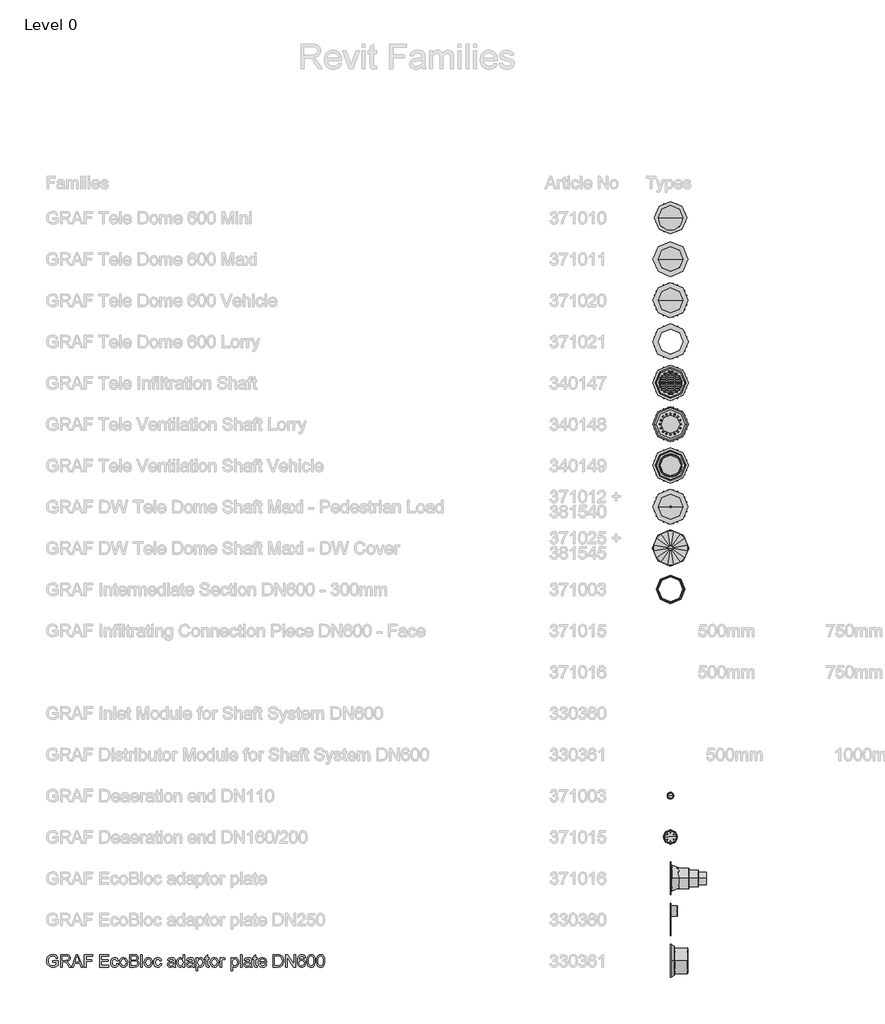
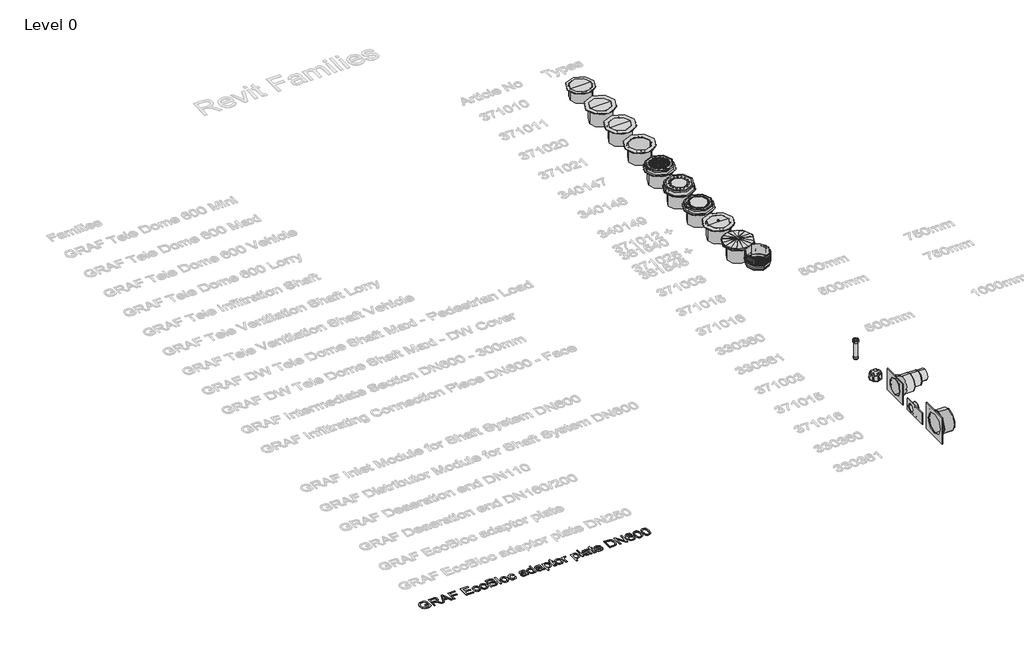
# One storey, part 1 of 25: 16 proxies.
"""IFC4 building model written with IfcOpenShell, lengths in millimetres."""

from ifc_helpers import new_model, si_unit, origin, origin_with_axes, place, context, project, spatial, polyline, outline, extrude, transform, mapped, element, save
from components import specialty_equipment_5184973a, specialty_equipment_2c5f0238, specialty_equipment_1d14676d, specialty_equipment_d7f88c08, specialty_equipment_90b081b5, specialty_equipment_a2e9a65d, specialty_equipment_93227a62, specialty_equipment_46b19107, specialty_equipment_2ab5d599, specialty_equipment_1e456aff, proxy_600_mini_8c9d897d, dome_600_vehicle_504724ee, infiltration_shaft_7ea02f98, intermediate_section_dn600_300mm_32245d74, ventilation_shaft_vehicle_b4d13a4b

model = new_model("IFC4")

# Units and contexts
model_context = context("Model", 3, world=origin())
ifc_project = project(units=[si_unit("LENGTHUNIT", "METRE", prefix="MILLI")], contexts=[model_context])

# Site, building, storey
site = spatial("IfcSite", under=ifc_project)
building = spatial("IfcBuilding", under=site)
storey = spatial("IfcBuildingStorey", under=building, Name="Level 0", Elevation=0.0)

# Proxies
placement = place(None, origin())
specialty_equipment_shape = specialty_equipment_5184973a(model_context)
element("IfcBuildingElementProxy", 1, Name="GRAF Tele Dome 600 Maxi : 600 Maxi", ObjectType="GRAF Tele Dome 600 Maxi : 600 Maxi", at=placement, inside=storey, context=model_context, shape_type="MappedRepresentation", body=[
    mapped(specialty_equipment_shape, transform((-270.8351154, 6948.6272801, 0.0), x_axis=(1.0, 0.0, 0.0), y_axis=(0.0, 1.0, 0.0), z_axis=(0.0, 0.0, 1.0))),
])
specialty_equipment_2_shape = specialty_equipment_2c5f0238(model_context)
element("IfcBuildingElementProxy", 2, Name="GRAF Tele Dome 600 Lorry : Dome 600 Lorry", ObjectType="GRAF Tele Dome 600 Lorry : Dome 600 Lorry", at=placement, inside=storey, context=model_context, shape_type="MappedRepresentation", body=[
    mapped(specialty_equipment_2_shape, transform((-270.8351154, 4949.0232018, 0.0), x_axis=(1.0, 0.0, 0.0), y_axis=(0.0, 1.0, 0.0), z_axis=(0.0, 0.0, 1.0))),
])
specialty_equipment_3_shape = specialty_equipment_1d14676d(model_context)
element("IfcBuildingElementProxy", 3, Name="GRAF Tele Ventilation Shaft Lorry : Ventilation Shaft Lorry", ObjectType="GRAF Tele Ventilation Shaft Lorry : Ventilation Shaft Lorry", at=placement, inside=storey, context=model_context, shape_type="MappedRepresentation", body=[
    mapped(specialty_equipment_3_shape, transform((-270.8351154, 2949.0232018, 0.0), x_axis=(1.0, 0.0, 0.0), y_axis=(0.0, 1.0, 0.0), z_axis=(0.0, 0.0, 1.0))),
])
specialty_equipment_4_shape = specialty_equipment_d7f88c08(model_context)
element("IfcBuildingElementProxy", 4, Name="GRAF DW Tele Dome Shaft Maxi - Pedestrian Load : DW Tele Dome Shaft Maxi - Pedestrian Load", ObjectType="GRAF DW Tele Dome Shaft Maxi - Pedestrian Load : DW Tele Dome Shaft Maxi - Pedestrian Load", at=placement, inside=storey, context=model_context, shape_type="MappedRepresentation", body=[
    mapped(specialty_equipment_4_shape, transform((-270.8351154, 949.0064731, 0.0), x_axis=(1.0, 0.0, 0.0), y_axis=(0.0, 1.0, 0.0), z_axis=(0.0, 0.0, 1.0))),
])
specialty_equipment_5_shape = specialty_equipment_90b081b5(model_context)
element("IfcBuildingElementProxy", 5, Name="GRAF DW Tele Dome Shaft Maxi - Cover : DW Tele Dome Shaft Maxi - Cover", ObjectType="GRAF DW Tele Dome Shaft Maxi - Cover : DW Tele Dome Shaft Maxi - Cover", at=placement, inside=storey, context=model_context, shape_type="MappedRepresentation", body=[
    mapped(specialty_equipment_5_shape, transform((-270.8351154, -50.9935269, 0.0), x_axis=(1.0, 0.0, 0.0), y_axis=(0.0, 1.0, 0.0), z_axis=(0.0, 0.0, 1.0))),
])
specialty_equipment_6_shape = specialty_equipment_a2e9a65d(model_context)
element("IfcBuildingElementProxy", 6, Name="GRAF EcoBloc adaptor plate DN600 : GRAF EcoBloc adaptor plate DN600", ObjectType="GRAF EcoBloc adaptor plate DN600 : GRAF EcoBloc adaptor plate DN600", at=placement, inside=storey, context=model_context, shape_type="MappedRepresentation", body=[
    mapped(specialty_equipment_6_shape, transform((883.9117754, -10050.9767982, 0.0), x_axis=(1.0, 0.0, 0.0), y_axis=(0.0, 1.0, 0.0), z_axis=(0.0, 0.0, 1.0))),
])
specialty_equipment_7_shape = specialty_equipment_93227a62(model_context)
element("IfcBuildingElementProxy", 7, Name="GRAF Deaeration end DN110 : GRAF Deaeration end DN110", ObjectType="GRAF Deaeration end DN110 : GRAF Deaeration end DN110", at=placement, inside=storey, context=model_context, shape_type="MappedRepresentation", body=[
    mapped(specialty_equipment_7_shape, transform((883.9117754, -6050.9767982, 0.0), x_axis=(1.0, 0.0, 0.0), y_axis=(0.0, 1.0, 0.0), z_axis=(0.0, 0.0, 1.0))),
])
specialty_equipment_8_shape = specialty_equipment_46b19107(model_context)
element("IfcBuildingElementProxy", 8, Name="GRAF Deaeration end DN160-DN200 : GRAF Deaeration end DN160/DN200", ObjectType="GRAF Deaeration end DN160-DN200 : GRAF Deaeration end DN160/DN200", at=placement, inside=storey, context=model_context, shape_type="MappedRepresentation", body=[
    mapped(specialty_equipment_8_shape, transform((883.9117754, -7050.9767982, 0.0), x_axis=(1.0, 0.0, 0.0), y_axis=(0.0, 1.0, 0.0), z_axis=(0.0, 0.0, 1.0))),
])
specialty_equipment_9_shape = specialty_equipment_2ab5d599(model_context)
element("IfcBuildingElementProxy", 9, Name="GRAF EcoBloc adaptor plate : GRAF EcoBloc adaptor plate", ObjectType="GRAF EcoBloc adaptor plate : GRAF EcoBloc adaptor plate", at=placement, inside=storey, context=model_context, shape_type="MappedRepresentation", body=[
    mapped(specialty_equipment_9_shape, transform((883.9117754, -8050.9767982, 0.0), x_axis=(1.0, 0.0, 0.0), y_axis=(0.0, 1.0, 0.0), z_axis=(0.0, 0.0, 1.0))),
])
specialty_equipment_10_shape = specialty_equipment_1e456aff(model_context)
element("IfcBuildingElementProxy", 10, Name="GRAF EcoBloc adaptor plate DN250 : GRAF EcoBloc adaptor plate DN250", ObjectType="GRAF EcoBloc adaptor plate DN250 : GRAF EcoBloc adaptor plate DN250", at=placement, inside=storey, context=model_context, shape_type="MappedRepresentation", body=[
    mapped(specialty_equipment_10_shape, transform((883.9117754, -9050.9767982, 0.0), x_axis=(1.0, 0.0, 0.0), y_axis=(0.0, 1.0, 0.0), z_axis=(0.0, 0.0, 1.0))),
])
element("IfcBuildingElementProxy", 11, Name="300mm Arial", ObjectType="300mm Arial", at=placement, inside=storey, context=model_context, shape_type="SweptSolid", body=[
    extrude(outline(polyline([(-15240.9940387, -10083.2545597), (-15240.9940387, -10045.5834434), (-15118.5629107, -10045.5834434), (-15118.5629107, -10158.2289103), (-15148.3153671, -10178.9222726), (-15179.0059225, -10193.7663111), (-15210.5610007, -10202.7058436), (-15242.9070251, -10205.6856877), (-15285.1674693, -10200.949207), (-15323.3628175, -10186.739765), (-15355.0926395, -10163.5540022), (-15377.9565055, -10131.8885595), (-15391.7796715, -10093.9047435), (-15396.3873935, -10051.7638609), (-15391.7980656, -10009.3194757), (-15378.0300819, -9969.8365406), (-15355.6536596, -9936.717964), (-15325.2390156, -9913.3666543), (-15288.1932987, -9899.5158972), (-15245.9236575, -9894.8989782), (-15214.8928112, -9897.5753197), (-15186.9889618, -9905.6043443), (-15163.4904994, -9918.4066377), (-15145.6758138, -9935.4027859), (-15132.4964413, -9957.4113262), (-15122.9039183, -9985.2507962), (-15157.6319786, -9995.0364573), (-15165.3850917, -9975.1800266), (-15174.8120678, -9960.1980323), (-15187.2832674, -9948.9040551), (-15204.169051, -9940.1116754), (-15224.3013932, -9934.4554897), (-15246.5122687, -9932.5700945), (-15272.5123287, -9934.6026425), (-15294.7415982, -9940.7002866), (-15313.1173039, -9950.0996716), (-15327.5566722, -9962.0374423), (-15346.9440533, -9991.0633317), (-15355.7732212, -10019.50061), (-15358.7162772, -10050.2187566), (-15355.175413, -10086.2436009), (-15344.5528204, -10115.8856927), (-15327.1703961, -10138.9334997), (-15303.3500369, -10155.1754898), (-15275.4737787, -10164.804801), (-15245.9236575, -10168.0145714), (-15219.831627, -10165.5957473), (-15194.3833899, -10158.3392749), (-15172.2828791, -10148.3420817), (-15156.234027, -10137.701095), (-15156.234027, -10083.2545597), (-15240.9940387, -10083.2545597)])), origin_with_axes(), (0.0, 0.0, 1.0), 10.0),
    extrude(outline(polyline([(-15057.3473467, -10200.9767982), (-15057.3473467, -9899.6078677), (-14927.4850024, -9899.6078677), (-14892.5821982, -9901.6404158), (-14867.1891434, -9907.7380598), (-14848.6294968, -9918.9952489), (-14834.2269167, -9936.5064318), (-14824.9838815, -9958.2206666), (-14821.9028698, -9982.087011), (-14827.0072325, -10011.7750881), (-14842.3203206, -10036.3863935), (-14853.9200997, -10046.4157764), (-14868.3019865, -10054.4310054), (-14905.4120827, -10064.4190016), (-14884.0013506, -10080.532233), (-14853.467145, -10119.3069952), (-14803.2144645, -10200.9767982), (-14846.9924219, -10200.9767982), (-14886.2086426, -10138.5104354), (-14914.5355562, -10097.1604991), (-14934.4379722, -10077.6259652), (-14952.3538253, -10070.4522663), (-14974.2060158, -10069.1278911), (-15019.6762304, -10069.1278911), (-15019.6762304, -10200.9767982), (-15057.3473467, -10200.9767982)]), holes=[polyline([(-15019.6762304, -10031.4567748), (-14935.3576771, -10031.4567748), (-14911.1418448, -10030.1232026), (-14892.3522719, -10026.1224859), (-14878.2072092, -10019.1879103), (-14867.9249074, -10009.0527613), (-14861.6617165, -9996.7930938), (-14859.5739861, -9983.4849626), (-14863.5563087, -9965.109257), (-14875.5032765, -9950.3020067), (-14896.058683, -9940.5347397), (-14925.8663217, -9937.278984), (-15019.6762304, -9937.278984), (-15019.6762304, -10031.4567748)])]), origin_with_axes(), (0.0, 0.0, 1.0), 10.0),
    extrude(outline(polyline([(-14791.0743586, -10200.9767982), (-14670.7769462, -9899.6078677), (-14638.6976362, -9899.6078677), (-14518.4002238, -10200.9767982), (-14558.2050557, -10200.9767982), (-14592.7123868, -10106.7990074), (-14716.835772, -10106.7990074), (-14751.2695268, -10200.9767982), (-14791.0743586, -10200.9767982)]), holes=[polyline([(-14703.003409, -10069.1278911), (-14606.4711735, -10069.1278911), (-14633.6208647, -9995.0364573), (-14654.7372912, -9937.278984), (-14673.499273, -9988.5617342), (-14703.003409, -10069.1278911)])]), origin_with_axes(), (0.0, 0.0, 1.0), 10.0),
    extrude(outline(polyline([(-14478.1539335, -10200.9767982), (-14478.1539335, -9899.6078677), (-14275.6716834, -9899.6078677), (-14275.6716834, -9937.278984), (-14440.4828172, -9937.278984), (-14440.4828172, -10026.7478853), (-14299.2161311, -10026.7478853), (-14299.2161311, -10064.4190016), (-14440.4828172, -10064.4190016), (-14440.4828172, -10200.9767982), (-14478.1539335, -10200.9767982)])), origin_with_axes(), (0.0, 0.0, 1.0), 10.0),
    extrude(outline(polyline([(-14106.15166, -10200.9767982), (-14106.15166, -9899.6078677), (-13889.5427413, -9899.6078677), (-13889.5427413, -9937.278984), (-14068.4805437, -9937.278984), (-14068.4805437, -10026.7478853), (-13898.9605203, -10026.7478853), (-13898.9605203, -10064.4190016), (-14068.4805437, -10064.4190016), (-14068.4805437, -10163.3056819), (-13884.8338517, -10163.3056819), (-13884.8338517, -10200.9767982), (-14106.15166, -10200.9767982)])), origin_with_axes(), (0.0, 0.0, 1.0), 10.0),
    extrude(outline(polyline([(-13691.7693806, -10120.925676), (-13654.0982643, -10125.6345656), (-13664.6012953, -10159.1394183), (-13684.3381643, -10184.4588966), (-13711.4510674, -10200.3789899), (-13744.0822004, -10205.6856877), (-13765.2101232, -10203.8347814), (-13784.1537467, -10198.2820626), (-13800.9130708, -10189.0275311), (-13815.4880956, -10176.0711871), (-13827.2856114, -10159.6567523), (-13835.7124083, -10140.0279486), (-13840.7684865, -10117.184776), (-13842.4538459, -10091.1272344), (-13839.5751693, -10057.6039876), (-13830.9391394, -10028.550507), (-13816.4078006, -10005.0888328), (-13795.8431971, -9988.341005), (-13771.2410887, -9978.2978265), (-13744.5972352, -9974.9501003), (-13712.7662455, -9979.5486253), (-13687.3180085, -9993.3442001), (-13669.0618645, -10015.6010608), (-13658.8071539, -10045.5834434), (-13696.4782702, -10050.292333), (-13703.3116782, -10033.8572048), (-13713.952665, -10022.0757839), (-13727.8126191, -10014.9848585), (-13744.3029296, -10012.6212166), (-13768.6475206, -10017.2749239), (-13787.9705224, -10031.2360456), (-13800.5796778, -10055.2587399), (-13804.7827296, -10090.0971648), (-13800.6716483, -10125.4046393), (-13788.3384044, -10149.5101071), (-13769.3648905, -10163.3884553), (-13745.3329991, -10168.0145714), (-13725.8260564, -10165.1266977), (-13709.8323866, -10156.4630768), (-13698.1981185, -10141.8029793), (-13691.7693806, -10120.925676)])), origin_with_axes(), (0.0, 0.0, 1.0), 10.0),
    extrude(outline(polyline([(-13630.5538167, -10090.317894), (-13628.5166701, -10061.6552881), (-13622.4052305, -10036.9566106), (-13612.2194977, -10016.2218617), (-13597.9594719, -9999.4510412), (-13583.602877, -9988.7318796), (-13567.7563601, -9981.0753356), (-13550.4199211, -9976.4814091), (-13531.5935599, -9974.9501003), (-13510.8105265, -9976.8148022), (-13492.0186543, -9982.4089078), (-13475.2179434, -9991.7324171), (-13460.4083939, -10004.7853302), (-13448.3211711, -10021.1261885), (-13439.6874405, -10040.3135338), (-13434.5072022, -10062.3473661), (-13432.780456, -10087.2276853), (-13435.8338766, -10125.2850777), (-13444.9941383, -10154.2557848), (-13459.9945266, -10175.9516255), (-13480.5683272, -10192.1844185), (-13505.0048887, -10202.3103704), (-13531.5935599, -10205.6856877), (-13552.6800961, -10203.8278836), (-13571.6467122, -10198.2544714), (-13588.4934083, -10188.965451), (-13603.2201844, -10175.9608225), (-13615.1786485, -10159.461315), (-13623.7204086, -10139.6876578), (-13628.8454646, -10116.6398508), (-13630.5538167, -10090.317894)]), holes=[polyline([(-13592.8827003, -10090.2443176), (-13588.5232987, -10124.3377815), (-13575.4450938, -10148.6271903), (-13555.763407, -10163.1677261), (-13531.5935599, -10168.0145714), (-13507.5340775, -10163.140135), (-13487.8891789, -10148.5168257), (-13474.810974, -10123.9055202), (-13470.4515723, -10089.0670952), (-13474.8385651, -10055.9669127), (-13487.9995435, -10032.0085978), (-13507.6720332, -10017.4680619), (-13531.5935599, -10012.6212166), (-13555.763407, -10017.4496678), (-13575.4450938, -10031.9350214), (-13588.5232987, -10056.1692478), (-13592.8827003, -10090.2443176)])]), origin_with_axes(), (0.0, 0.0, 1.0), 10.0),
    extrude(outline(polyline([(-13385.6915607, -10200.9767982), (-13385.6915607, -9899.6078677), (-13270.691649, -9899.6078677), (-13239.0629944, -9901.8243568), (-13214.3689155, -9908.4738238), (-13195.4413869, -9919.7218158), (-13181.1123831, -9935.7338797), (-13172.0900772, -9954.5694378), (-13169.0826419, -9974.2879128), (-13171.6118306, -9992.4336922), (-13179.1993968, -10009.4942197), (-13191.9005227, -10024.4210316), (-13209.7703906, -10036.1656643), (-13188.4240378, -10047.3124888), (-13172.6510973, -10064.2718488), (-13162.9114214, -10085.9217042), (-13159.6648628, -10111.140015), (-13161.8813518, -10132.1552739), (-13168.5308189, -10151.6438226), (-13178.4544357, -10168.2169065), (-13190.493374, -10180.485771), (-13205.236245, -10189.3701212), (-13223.2716598, -10195.789662), (-13271.5745658, -10200.9767982), (-13385.6915607, -10200.9767982)]), holes=[polyline([(-13348.0204444, -10163.3056819), (-13270.7652254, -10163.3056819), (-13242.8061937, -10161.8341539), (-13219.1513814, -10153.6303854), (-13203.4796084, -10136.8917546), (-13198.8718865, -10125.0643485), (-13197.3359791, -10111.507897), (-13199.1386009, -10095.7625476), (-13204.5464662, -10082.2244901), (-13213.9918365, -10071.6386857), (-13227.9069729, -10064.7500954), (-13247.6162508, -10060.9701079), (-13274.4440453, -10059.710112), (-13348.0204444, -10059.710112), (-13348.0204444, -10163.3056819)]), polyline([(-13348.0204444, -10022.0389957), (-13279.2265113, -10022.0389957), (-13239.0537974, -10018.8016342), (-13224.9915081, -10013.2190249), (-13214.8839503, -10004.8589065), (-13208.7863062, -9993.8500378), (-13206.7537582, -9980.3211775), (-13208.6483505, -9967.1877902), (-13214.3321273, -9955.7466602), (-13223.5475713, -9946.8163248), (-13236.037165, -9941.2153214), (-13284.4504356, -9937.278984), (-13348.0204444, -9937.278984), (-13348.0204444, -10022.0389957)])]), origin_with_axes(), (0.0, 0.0, 1.0), 10.0),
    extrude(outline(polyline([(-13112.5759674, -10200.9767982), (-13112.5759674, -9899.6078677), (-13074.9048511, -9899.6078677), (-13074.9048511, -10200.9767982), (-13112.5759674, -10200.9767982)])), origin_with_axes(), (0.0, 0.0, 1.0), 10.0),
    extrude(outline(polyline([(-13027.8159558, -10090.317894), (-13025.7788092, -10061.6552881), (-13019.6673696, -10036.9566106), (-13009.4816368, -10016.2218617), (-12995.221611, -9999.4510412), (-12980.8650161, -9988.7318796), (-12965.0184992, -9981.0753356), (-12947.6820602, -9976.4814091), (-12928.855699, -9974.9501003), (-12908.0726656, -9976.8148022), (-12889.2807934, -9982.4089078), (-12872.4800826, -9991.7324171), (-12857.670533, -10004.7853302), (-12845.5833102, -10021.1261885), (-12836.9495796, -10040.3135338), (-12831.7693413, -10062.3473661), (-12830.0425951, -10087.2276853), (-12833.0960157, -10125.2850777), (-12842.2562774, -10154.2557848), (-12857.2566657, -10175.9516255), (-12877.8304663, -10192.1844185), (-12902.2670278, -10202.3103704), (-12928.855699, -10205.6856877), (-12949.9422352, -10203.8278836), (-12968.9088513, -10198.2544714), (-12985.7555474, -10188.965451), (-13000.4823235, -10175.9608225), (-13012.4407876, -10159.461315), (-13020.9825477, -10139.6876578), (-13026.1076037, -10116.6398508), (-13027.8159558, -10090.317894)]), holes=[polyline([(-12990.1448394, -10090.2443176), (-12985.7854378, -10124.3377815), (-12972.7072329, -10148.6271903), (-12953.0255461, -10163.1677261), (-12928.855699, -10168.0145714), (-12904.7962166, -10163.140135), (-12885.151318, -10148.5168257), (-12872.0731131, -10123.9055202), (-12867.7137115, -10089.0670952), (-12872.1007042, -10055.9669127), (-12885.2616826, -10032.0085978), (-12904.9341723, -10017.4680619), (-12928.855699, -10012.6212166), (-12953.0255461, -10017.4496678), (-12972.7072329, -10031.9350214), (-12985.7854378, -10056.1692478), (-12990.1448394, -10090.2443176)])]), origin_with_axes(), (0.0, 0.0, 1.0), 10.0),
    extrude(outline(polyline([(-12646.3959032, -10120.925676), (-12608.7247868, -10125.6345656), (-12619.2278178, -10159.1394183), (-12638.9646869, -10184.4588966), (-12666.0775899, -10200.3789899), (-12698.7087229, -10205.6856877), (-12719.8366457, -10203.8347814), (-12738.7802692, -10198.2820626), (-12755.5395933, -10189.0275311), (-12770.1146181, -10176.0711871), (-12781.9121339, -10159.6567523), (-12790.3389308, -10140.0279486), (-12795.395009, -10117.184776), (-12797.0803684, -10091.1272344), (-12794.2016918, -10057.6039876), (-12785.5656619, -10028.550507), (-12771.0343231, -10005.0888328), (-12750.4697196, -9988.341005), (-12725.8676112, -9978.2978265), (-12699.2237577, -9974.9501003), (-12667.392768, -9979.5486253), (-12641.944531, -9993.3442001), (-12623.688387, -10015.6010608), (-12613.4336764, -10045.5834434), (-12651.1047927, -10050.292333), (-12657.9382008, -10033.8572048), (-12668.5791875, -10022.0757839), (-12682.4391416, -10014.9848585), (-12698.9294521, -10012.6212166), (-12723.2740431, -10017.2749239), (-12742.5970449, -10031.2360456), (-12755.2062003, -10055.2587399), (-12759.4092521, -10090.0971648), (-12755.2981708, -10125.4046393), (-12742.9649269, -10149.5101071), (-12723.991413, -10163.3884553), (-12699.9595217, -10168.0145714), (-12680.4525789, -10165.1266977), (-12664.4589091, -10156.4630768), (-12652.824641, -10141.8029793), (-12646.3959032, -10120.925676)])), origin_with_axes(), (0.0, 0.0, 1.0), 10.0),
    extrude(outline(polyline([(-12316.7736355, -10172.7234609), (-12334.7722621, -10188.1561106), (-12353.3043176, -10198.2544714), (-12372.7928663, -10203.8278836), (-12393.6609725, -10205.6856877), (-12425.1424742, -10201.2159215), (-12448.3650251, -10187.8066228), (-12462.6848318, -10167.4443543), (-12467.4581007, -10142.1156789), (-12465.6554789, -10126.4990883), (-12460.2476136, -10112.3172373), (-12451.9058894, -10100.1771315), (-12441.3016908, -10090.685776), (-12414.9245518, -10078.324941), (-12382.330207, -10072.6595583), (-12343.8129621, -10066.6998699), (-12316.9943647, -10059.710112), (-12316.7736355, -10051.3224025), (-12319.3672035, -10034.5101954), (-12327.1479077, -10023.5105237), (-12344.5487261, -10015.3435434), (-12368.7921496, -10012.6212166), (-12391.2329513, -10014.4330355), (-12406.9047243, -10019.868492), (-12417.5916963, -10029.9208675), (-12425.0780949, -10045.5834434), (-12462.7492112, -10040.8745539), (-12456.2101087, -10020.2731621), (-12446.4520388, -10004.0863544), (-12432.5644935, -9991.7071252), (-12413.6369648, -9982.5284694), (-12390.4879903, -9976.8446926), (-12363.9361073, -9974.9501003), (-12338.4694761, -9976.6239634), (-12318.2819517, -9981.6455527), (-12303.0608341, -9989.1963306), (-12292.4934238, -9998.4577598), (-12285.4852718, -10009.9080869), (-12280.9419291, -10024.0255585), (-12279.1025192, -10056.9877853), (-12279.1025192, -10103.8559515), (-12277.1895328, -10169.3021584), (-12269.6847401, -10200.9767982), (-12307.3558564, -10200.9767982), (-12316.7736355, -10172.7234609)]), holes=[polyline([(-12316.7736355, -10097.3812283), (-12377.5477411, -10108.932723), (-12409.9581449, -10115.0395641), (-12424.6366365, -10124.972378), (-12429.7869844, -10139.4669286), (-12426.9818842, -10150.6689353), (-12418.5665835, -10159.8475911), (-12404.7250235, -10165.9728263), (-12385.641145, -10168.0145714), (-12365.4076352, -10165.7612942), (-12347.5285703, -10159.0014625), (-12333.0340197, -10149.0410575), (-12322.954053, -10137.1860602), (-12318.4842868, -10124.972378), (-12316.9943647, -10108.0498062), (-12316.7736355, -10097.3812283)])]), origin_with_axes(), (0.0, 0.0, 1.0), 10.0),
    extrude(outline(polyline([(-12090.7469376, -10200.9767982), (-12090.7469376, -10165.4393974), (-12102.0179223, -10183.0471494), (-12115.6709428, -10195.6241151), (-12131.7059993, -10203.1702946), (-12150.1230917, -10205.6856877), (-12174.4768797, -10202.043656), (-12196.7705286, -10191.1175607), (-12215.642875, -10173.6707571), (-12229.7327554, -10150.4666002), (-12238.506741, -10122.4431893), (-12241.4314029, -10090.5386232), (-12238.7366672, -10059.0295303), (-12230.6524604, -10030.573858), (-12217.1879794, -10006.790287), (-12198.3524212, -9989.2974982), (-12175.5713287, -9978.5369498), (-12150.2702445, -9974.9501003), (-12131.8393565, -9977.5160773), (-12115.5421841, -9985.214008), (-12101.7282152, -9997.013823), (-12090.7469376, -10011.8854527), (-12090.7469376, -9899.6078677), (-12053.0758213, -9899.6078677), (-12053.0758213, -10200.9767982), (-12090.7469376, -10200.9767982)]), holes=[polyline([(-12203.7602866, -10090.3914704), (-12199.5112495, -10124.4665402), (-12186.7641384, -10148.7007667), (-12168.2412799, -10163.1861202), (-12146.6650009, -10168.0145714), (-12125.0979189, -10163.4068494), (-12107.04411, -10149.5836835), (-12094.8212307, -10126.2875561), (-12090.7469376, -10093.26095), (-12094.8948071, -10057.1533322), (-12107.3384156, -10032.1189624), (-12125.852077, -10017.4956531), (-12148.2101053, -10012.6212166), (-12170.0071135, -10017.302515), (-12187.8677844, -10031.3464102), (-12199.787161, -10055.470272), (-12203.7602866, -10090.3914704)])]), origin_with_axes(), (0.0, 0.0, 1.0), 10.0),
    extrude(outline(polyline([(-11855.3024607, -10172.7234609), (-11873.3010873, -10188.1561106), (-11891.8331428, -10198.2544714), (-11911.3216915, -10203.8278836), (-11932.1897977, -10205.6856877), (-11963.6712995, -10201.2159215), (-11986.8938504, -10187.8066228), (-12001.2136571, -10167.4443543), (-12005.9869259, -10142.1156789), (-12004.1843042, -10126.4990883), (-11998.7764388, -10112.3172373), (-11990.4347146, -10100.1771315), (-11979.8305161, -10090.685776), (-11953.453377, -10078.324941), (-11920.8590323, -10072.6595583), (-11882.3417874, -10066.6998699), (-11855.5231899, -10059.710112), (-11855.3024607, -10051.3224025), (-11857.8960288, -10034.5101954), (-11865.676733, -10023.5105237), (-11883.0775514, -10015.3435434), (-11907.3209748, -10012.6212166), (-11929.7617765, -10014.4330355), (-11945.4335495, -10019.868492), (-11956.1205215, -10029.9208675), (-11963.6069201, -10045.5834434), (-12001.2780364, -10040.8745539), (-11994.7389339, -10020.2731621), (-11984.980864, -10004.0863544), (-11971.0933187, -9991.7071252), (-11952.1657901, -9982.5284694), (-11929.0168155, -9976.8446926), (-11902.4649325, -9974.9501003), (-11876.9983014, -9976.6239634), (-11856.8107769, -9981.6455527), (-11841.5896594, -9989.1963306), (-11831.022249, -9998.4577598), (-11824.014097, -10009.9080869), (-11819.4707544, -10024.0255585), (-11817.6313444, -10056.9877853), (-11817.6313444, -10103.8559515), (-11815.718358, -10169.3021584), (-11808.2135653, -10200.9767982), (-11845.8846816, -10200.9767982), (-11855.3024607, -10172.7234609)]), holes=[polyline([(-11855.3024607, -10097.3812283), (-11916.0765663, -10108.932723), (-11948.4869701, -10115.0395641), (-11963.1654617, -10124.972378), (-11968.3158096, -10139.4669286), (-11965.5107094, -10150.6689353), (-11957.0954088, -10159.8475911), (-11943.2538487, -10165.9728263), (-11924.1699702, -10168.0145714), (-11903.9364605, -10165.7612942), (-11886.0573955, -10159.0014625), (-11871.5628449, -10149.0410575), (-11861.4828782, -10137.1860602), (-11857.013112, -10124.972378), (-11855.5231899, -10108.0498062), (-11855.3024607, -10097.3812283)])]), origin_with_axes(), (0.0, 0.0, 1.0), 10.0),
    extrude(outline(polyline([(-11765.8335595, -10285.7368099), (-11765.8335595, -9979.6589899), (-11728.1624432, -9979.6589899), (-11728.1624432, -10016.5943422), (-11715.8751846, -9998.3749864), (-11702.1163979, -9985.3611608), (-11686.0767429, -9977.5528655), (-11666.9468792, -9974.9501003), (-11641.471051, -9978.5921321), (-11619.1957962, -9989.5182274), (-11601.0592139, -10007.0661985), (-11587.999403, -10030.573858), (-11580.1083342, -10058.3305545), (-11577.477978, -10088.6256369), (-11580.4486251, -10120.8429026), (-11589.3605664, -10149.6572599), (-11603.9286934, -10173.6063777), (-11623.8678976, -10191.2279253), (-11647.0904485, -10202.0712471), (-11671.5086159, -10205.6856877), (-11688.8266609, -10203.2668636), (-11704.2869017, -10196.0103912), (-11717.5214565, -10185.0567048), (-11728.1624432, -10171.5462386), (-11728.1624432, -10285.7368099), (-11765.8335595, -10285.7368099)]), holes=[polyline([(-11728.1624432, -10092.0837276), (-11724.0881501, -10125.8552948), (-11711.8652708, -10149.4733189), (-11693.829856, -10163.3792583), (-11672.3179563, -10168.0145714), (-11650.4565688, -10163.2137114), (-11631.9613015, -10148.8111313), (-11619.3521461, -10124.3285845), (-11615.1490943, -10089.2878244), (-11619.2509785, -10055.7001983), (-11631.5566313, -10031.7510804), (-11649.5644549, -10017.4036826), (-11670.7728519, -10012.6212166), (-11692.0640224, -10017.7071852), (-11710.7616248, -10032.965091), (-11723.8122386, -10057.9166873), (-11728.1624432, -10092.0837276)])]), origin_with_axes(), (0.0, 0.0, 1.0), 10.0),
    extrude(outline(polyline([(-11455.04685, -10169.5596758), (-11450.3379604, -10202.0804442), (-11478.5177213, -10205.6856877), (-11496.5991213, -10204.1221892), (-11510.0819965, -10199.4316938), (-11519.6101401, -10192.2028126), (-11525.8273458, -10183.0241568), (-11529.2486484, -10167.2604133), (-11530.3890826, -10140.276269), (-11530.3890826, -10017.3301062), (-11558.6424198, -10017.3301062), (-11558.6424198, -9979.6589899), (-11530.3890826, -9979.6589899), (-11530.3890826, -9925.8746422), (-11492.7179663, -9903.7281461), (-11492.7179663, -9979.6589899), (-11455.04685, -9979.6589899), (-11455.04685, -10017.3301062), (-11492.7179663, -10017.3301062), (-11492.7179663, -10139.172623), (-11490.7314035, -10158.5967923), (-11484.2934686, -10165.4761856), (-11471.454387, -10168.0145714), (-11455.04685, -10169.5596758)])), origin_with_axes(), (0.0, 0.0, 1.0), 10.0),
    extrude(outline(polyline([(-11426.7935127, -10090.317894), (-11424.7563662, -10061.6552881), (-11418.6449265, -10036.9566106), (-11408.4591938, -10016.2218617), (-11394.199168, -9999.4510412), (-11379.8425731, -9988.7318796), (-11363.9960562, -9981.0753356), (-11346.6596171, -9976.4814091), (-11327.833256, -9974.9501003), (-11307.0502226, -9976.8148022), (-11288.2583504, -9982.4089078), (-11271.4576395, -9991.7324171), (-11256.64809, -10004.7853302), (-11244.5608672, -10021.1261885), (-11235.9271366, -10040.3135338), (-11230.7468983, -10062.3473661), (-11229.0201521, -10087.2276853), (-11232.0735727, -10125.2850777), (-11241.2338344, -10154.2557848), (-11256.2342227, -10175.9516255), (-11276.8080233, -10192.1844185), (-11301.2445848, -10202.3103704), (-11327.833256, -10205.6856877), (-11348.9197922, -10203.8278836), (-11367.8864083, -10198.2544714), (-11384.7331044, -10188.965451), (-11399.4598805, -10175.9608225), (-11411.4183446, -10159.461315), (-11419.9601047, -10139.6876578), (-11425.0851607, -10116.6398508), (-11426.7935127, -10090.317894)]), holes=[polyline([(-11389.1223964, -10090.2443176), (-11384.7629948, -10124.3377815), (-11371.6847899, -10148.6271903), (-11352.0031031, -10163.1677261), (-11327.833256, -10168.0145714), (-11303.7737736, -10163.140135), (-11284.128875, -10148.5168257), (-11271.0506701, -10123.9055202), (-11266.6912684, -10089.0670952), (-11271.0782612, -10055.9669127), (-11284.2392396, -10032.0085978), (-11303.9117293, -10017.4680619), (-11327.833256, -10012.6212166), (-11352.0031031, -10017.4496678), (-11371.6847899, -10031.9350214), (-11384.7629948, -10056.1692478), (-11389.1223964, -10090.2443176)])]), origin_with_axes(), (0.0, 0.0, 1.0), 10.0),
    extrude(outline(polyline([(-11186.6401463, -10200.9767982), (-11186.6401463, -9979.6589899), (-11153.6779195, -9979.6589899), (-11153.6779195, -10012.4004875), (-11141.5010255, -9993.4177765), (-11130.2806246, -9982.2341638), (-11119.0234356, -9976.7711162), (-11106.7361769, -9974.9501003), (-11087.9741952, -9977.8563681), (-11068.9179078, -9986.5751714), (-11081.4994721, -10020.3467385), (-11094.7432239, -10014.5525971), (-11107.9869757, -10012.6212166), (-11119.2349677, -10014.4790207), (-11129.2873432, -10020.052433), (-11137.4083383, -10028.918389), (-11142.8621889, -10040.6538247), (-11147.4423197, -10061.6966748), (-11148.96903, -10084.6525113), (-11148.96903, -10200.9767982), (-11186.6401463, -10200.9767982)])), origin_with_axes(), (0.0, 0.0, 1.0), 10.0),
    extrude(outline(polyline([(-10927.6512217, -10285.7368099), (-10927.6512217, -9979.6589899), (-10889.9801054, -9979.6589899), (-10889.9801054, -10016.5943422), (-10877.6928467, -9998.3749864), (-10863.9340601, -9985.3611608), (-10847.8944051, -9977.5528655), (-10828.7645414, -9974.9501003), (-10803.2887132, -9978.5921321), (-10781.0134584, -9989.5182274), (-10762.876876, -10007.0661985), (-10749.8170652, -10030.573858), (-10741.9259964, -10058.3305545), (-10739.2956402, -10088.6256369), (-10742.2662873, -10120.8429026), (-10751.1782286, -10149.6572599), (-10765.7463556, -10173.6063777), (-10785.6855597, -10191.2279253), (-10808.9081107, -10202.0712471), (-10833.3262781, -10205.6856877), (-10850.644323, -10203.2668636), (-10866.1045639, -10196.0103912), (-10879.3391187, -10185.0567048), (-10889.9801054, -10171.5462386), (-10889.9801054, -10285.7368099), (-10927.6512217, -10285.7368099)]), holes=[polyline([(-10889.9801054, -10092.0837276), (-10885.9058123, -10125.8552948), (-10873.682933, -10149.4733189), (-10855.6475182, -10163.3792583), (-10834.1356185, -10168.0145714), (-10812.2742309, -10163.2137114), (-10793.7789636, -10148.8111313), (-10781.1698083, -10124.3285845), (-10776.9667565, -10089.2878244), (-10781.0686407, -10055.7001983), (-10793.3742934, -10031.7510804), (-10811.3821171, -10017.4036826), (-10832.5905141, -10012.6212166), (-10853.8816846, -10017.7071852), (-10872.579287, -10032.965091), (-10885.6299008, -10057.9166873), (-10889.9801054, -10092.0837276)])]), origin_with_axes(), (0.0, 0.0, 1.0), 10.0),
    extrude(outline(polyline([(-10696.9156343, -10200.9767982), (-10696.9156343, -9899.6078677), (-10659.244518, -9899.6078677), (-10659.244518, -10200.9767982), (-10696.9156343, -10200.9767982)])), origin_with_axes(), (0.0, 0.0, 1.0), 10.0),
    extrude(outline(polyline([(-10461.4711574, -10172.7234609), (-10479.469784, -10188.1561106), (-10498.0018395, -10198.2544714), (-10517.4903882, -10203.8278836), (-10538.3584944, -10205.6856877), (-10569.8399961, -10201.2159215), (-10593.0625471, -10187.8066228), (-10607.3823537, -10167.4443543), (-10612.1556226, -10142.1156789), (-10610.3530008, -10126.4990883), (-10604.9451355, -10112.3172373), (-10596.6034113, -10100.1771315), (-10585.9992128, -10090.685776), (-10559.6220737, -10078.324941), (-10527.0277289, -10072.6595583), (-10488.510484, -10066.6998699), (-10461.6918866, -10059.710112), (-10461.4711574, -10051.3224025), (-10464.0647255, -10034.5101954), (-10471.8454297, -10023.5105237), (-10489.246248, -10015.3435434), (-10513.4896715, -10012.6212166), (-10535.9304732, -10014.4330355), (-10551.6022462, -10019.868492), (-10562.2892182, -10029.9208675), (-10569.7756168, -10045.5834434), (-10607.4467331, -10040.8745539), (-10600.9076306, -10020.2731621), (-10591.1495607, -10004.0863544), (-10577.2620154, -9991.7071252), (-10558.3344867, -9982.5284694), (-10535.1855122, -9976.8446926), (-10508.6336292, -9974.9501003), (-10483.1669981, -9976.6239634), (-10462.9794736, -9981.6455527), (-10447.758356, -9989.1963306), (-10437.1909457, -9998.4577598), (-10430.1827937, -10009.9080869), (-10425.6394511, -10024.0255585), (-10423.8000411, -10056.9877853), (-10423.8000411, -10103.8559515), (-10421.8870547, -10169.3021584), (-10414.382262, -10200.9767982), (-10452.0533783, -10200.9767982), (-10461.4711574, -10172.7234609)]), holes=[polyline([(-10461.4711574, -10097.3812283), (-10522.245263, -10108.932723), (-10554.6556668, -10115.0395641), (-10569.3341584, -10124.972378), (-10574.4845063, -10139.4669286), (-10571.6794061, -10150.6689353), (-10563.2641055, -10159.8475911), (-10549.4225454, -10165.9728263), (-10530.3386669, -10168.0145714), (-10510.1051572, -10165.7612942), (-10492.2260922, -10159.0014625), (-10477.7315416, -10149.0410575), (-10467.6515749, -10137.1860602), (-10463.1818087, -10124.972378), (-10461.6918866, -10108.0498062), (-10461.4711574, -10097.3812283)])]), origin_with_axes(), (0.0, 0.0, 1.0), 10.0),
    extrude(outline(polyline([(-10291.951134, -10169.5596758), (-10287.2422445, -10202.0804442), (-10315.4220053, -10205.6856877), (-10333.5034054, -10204.1221892), (-10346.9862805, -10199.4316938), (-10356.5144242, -10192.2028126), (-10362.7316299, -10183.0241568), (-10366.1529324, -10167.2604133), (-10367.2933666, -10140.276269), (-10367.2933666, -10017.3301062), (-10395.5467039, -10017.3301062), (-10395.5467039, -9979.6589899), (-10367.2933666, -9979.6589899), (-10367.2933666, -9925.8746422), (-10329.6222503, -9903.7281461), (-10329.6222503, -9979.6589899), (-10291.951134, -9979.6589899), (-10291.951134, -10017.3301062), (-10329.6222503, -10017.3301062), (-10329.6222503, -10139.172623), (-10327.6356876, -10158.5967923), (-10321.1977526, -10165.4761856), (-10308.358671, -10168.0145714), (-10291.951134, -10169.5596758)])), origin_with_axes(), (0.0, 0.0, 1.0), 10.0),
    extrude(outline(polyline([(-10099.3281213, -10135.0523446), (-10062.392769, -10139.7612342), (-10075.7009002, -10167.5915071), (-10096.9368884, -10188.3952339), (-10125.622487, -10201.3630743), (-10161.2794493, -10205.6856877), (-10184.6537516, -10203.8209859), (-10205.4804711, -10198.2268803), (-10223.7596077, -10188.9033709), (-10239.4911615, -10175.8504579), (-10252.1417036, -10159.4314246), (-10261.1778051, -10140.0095545), (-10266.599466, -10117.5848477), (-10268.4066863, -10092.157304), (-10266.5810719, -10065.8675369), (-10261.1042287, -10042.6955698), (-10251.9761567, -10022.6414025), (-10239.1968559, -10005.7050351), (-10223.5066888, -9992.2497512), (-10205.646018, -9982.638834), (-10185.6148433, -9976.8722838), (-10163.4131649, -9974.9501003), (-10141.9265571, -9976.8676852), (-10122.49549, -9982.6204399), (-10105.1199635, -9992.2083644), (-10089.7999777, -10005.6314587), (-10077.2942891, -10022.5310379), (-10068.3616544, -10042.548417), (-10063.0020736, -10065.6835959), (-10061.2155466, -10091.9365748), (-10061.4362758, -10102.0901179), (-10230.73557, -10102.0901179), (-10224.2148617, -10130.2882728), (-10209.0673205, -10151.0184232), (-10187.2059329, -10163.7655344), (-10160.5436853, -10168.0145714), (-10140.4941166, -10166.0464027), (-10123.608333, -10160.1418967), (-10109.8863346, -10149.9331713), (-10099.3281213, -10135.0523446)]), holes=[polyline([(-10230.73557, -10064.4190016), (-10098.886663, -10064.4190016), (-10103.9818286, -10044.5165856), (-10113.9698248, -10030.2795524), (-10135.9323799, -10017.0358006), (-10163.5603177, -10012.6212166), (-10188.9533724, -10016.1436868), (-10209.9502373, -10026.7110971), (-10224.5459555, -10043.1830134), (-10230.73557, -10064.4190016)])]), origin_with_axes(), (0.0, 0.0, 1.0), 10.0),
    extrude(outline(polyline([(-9901.1133023, -10200.9767982), (-9901.1133023, -9899.6078677), (-9797.1498505, -9899.6078677), (-9743.3655028, -9903.9488753), (-9719.3428085, -9912.3181907), (-9699.0725106, -9925.5067602), (-9678.2319956, -9948.4625967), (-9663.3879571, -9977.0102395), (-9654.5036069, -10010.5978657), (-9651.5421568, -10048.6736522), (-9653.5471137, -10081.0196766), (-9659.5619843, -10109.484546), (-9668.722246, -10133.7187724), (-9680.163376, -10153.372868), (-9693.3335515, -10168.8882911), (-9707.6809493, -10180.7065002), (-9724.1528656, -10189.4712888), (-9743.6965966, -10195.8264502), (-9792.1466554, -10200.9767982), (-9901.1133023, -10200.9767982)]), holes=[polyline([(-9863.442186, -10163.3056819), (-9796.7819685, -10163.3056819), (-9769.209213, -10161.9445185), (-9748.2951215, -10157.8610283), (-9732.512984, -10151.2943347), (-9720.3360899, -10142.4835609), (-9707.2486879, -10126.1771915), (-9697.4170416, -10105.069962), (-9691.2642152, -10079.069902), (-9689.2132731, -10048.085041), (-9693.2323839, -10007.0294103), (-9705.2897163, -9976.7159339), (-9723.1044019, -9955.893813), (-9744.3955724, -9943.3122488), (-9766.0638219, -9938.7873002), (-9797.8120381, -9937.278984), (-9863.442186, -9937.278984), (-9863.442186, -10163.3056819)])]), origin_with_axes(), (0.0, 0.0, 1.0), 10.0),
    extrude(outline(polyline([(-9599.7443719, -10200.9767982), (-9599.7443719, -9899.6078677), (-9559.4245052, -9899.6078677), (-9401.9710113, -10138.3632826), (-9401.9710113, -9899.6078677), (-9364.299895, -9899.6078677), (-9364.299895, -10200.9767982), (-9404.6197617, -10200.9767982), (-9562.0732556, -9962.1478069), (-9562.0732556, -10200.9767982), (-9599.7443719, -10200.9767982)])), origin_with_axes(), (0.0, 0.0, 1.0), 10.0),
    extrude(outline(polyline([(-9119.437639, -9979.6589899), (-9157.1087553, -9984.3678794), (-9163.1788082, -9965.6978682), (-9171.3825767, -9952.950757), (-9188.4706954, -9941.1969273), (-9209.1272694, -9937.278984), (-9226.6384524, -9939.5598524), (-9243.1195658, -9946.4024575), (-9257.2738255, -9960.8142347), (-9268.8345172, -9980.6522713), (-9276.6428126, -10008.7124704), (-9279.5398833, -10047.7907354), (-9264.4291303, -10030.1599908), (-9246.3201391, -10017.7347764), (-9226.2245851, -10010.3679394), (-9205.1541439, -10007.9123271), (-9187.0543497, -10009.5907887), (-9170.3525071, -10014.6261735), (-9155.0486161, -10023.0184815), (-9141.1426767, -10034.7677128), (-9129.5865835, -10049.1748914), (-9121.3322313, -10065.5410417), (-9116.3796199, -10083.8661635), (-9114.7287495, -10104.150257), (-9117.8373523, -10131.1252043), (-9127.1631609, -10156.131983), (-9141.933623, -10177.34038), (-9161.3761864, -10192.9201825), (-9184.6079344, -10202.4943114), (-9210.7459502, -10205.6856877), (-9233.2028467, -10203.5703662), (-9253.484641, -10197.2244018), (-9271.5913329, -10186.6477945), (-9287.5229226, -10171.8405442), (-9300.5114563, -10152.1772515), (-9309.7889803, -10127.0325171), (-9315.3554948, -10096.406341), (-9317.2109996, -10060.2987232), (-9315.1508604, -10019.8179082), (-9308.9704429, -9985.2691903), (-9298.669747, -9956.6525696), (-9284.2487728, -9933.9680461), (-9268.6183866, -9918.9354681), (-9250.4955998, -9908.1979123), (-9229.8804125, -9901.7553789), (-9206.7728246, -9899.6078677), (-9173.7186274, -9904.9237626), (-9147.2495178, -9920.8714471), (-9128.7082653, -9946.2001224), (-9119.437639, -9979.6589899)]), holes=[polyline([(-9279.5398833, -10103.5616459), (-9277.3601825, -10120.2542914), (-9270.82108, -10136.1927788), (-9260.6675369, -10149.8963831), (-9247.6445143, -10159.8843793), (-9231.9267561, -10165.9820234), (-9213.6890062, -10168.0145714), (-9188.8293803, -10163.8023226), (-9169.2856493, -10151.165576), (-9156.6213117, -10131.2999483), (-9152.3998658, -10105.4010558), (-9156.5661294, -10080.54143), (-9169.0649201, -10061.5863102), (-9188.9397449, -10049.5841601), (-9215.2341105, -10045.5834434), (-9240.0569482, -10049.5841601), (-9260.8146897, -10061.5863102), (-9274.8585849, -10080.0815775), (-9279.5398833, -10103.5616459)])]), origin_with_axes(), (0.0, 0.0, 1.0), 10.0),
    extrude(outline(polyline([(-9081.7665227, -10052.7203541), (-9078.9982107, -10004.4818275), (-9070.6932746, -9966.0105679), (-9056.934488, -9936.717964), (-9037.8046243, -9916.0154047), (-9013.1657276, -9903.709752), (-8982.8798424, -9899.6078677), (-8959.6664885, -9902.0358889), (-8938.8811558, -9909.3199524), (-8921.4987315, -9921.1749497), (-8908.494103, -9937.3157722), (-8898.6716537, -9957.6044643), (-8890.8357672, -9981.9030701), (-8885.7038134, -10012.7591724), (-8883.9931621, -10052.7203541), (-8886.7338829, -10100.6829692), (-8894.9560455, -10139.0622584), (-8908.6320587, -10168.3824534), (-8927.7343313, -10189.1677861), (-8952.4284102, -10201.5562123), (-8982.8798424, -10205.6856877), (-9003.6283869, -10203.892263), (-9022.0224867, -10198.5119888), (-9038.0621417, -10189.5448652), (-9051.7473519, -10176.9908921), (-9064.8807391, -10154.2971715), (-9074.26173, -10126.0208417), (-9079.8903245, -10092.1619025), (-9081.7665227, -10052.7203541)]), holes=[polyline([(-9044.0954064, -10052.6467777), (-9039.6808224, -10111.9033701), (-9034.1625925, -10132.1713688), (-9026.4370706, -10146.1991691), (-9006.7185957, -10162.5607208), (-8982.8798424, -10168.0145714), (-8959.0410891, -10162.5423267), (-8939.3226142, -10146.1255927), (-8931.5970923, -10132.0747997), (-8926.0788623, -10111.8113996), (-8921.6642784, -10052.6467777), (-8925.9317095, -9994.7237576), (-8931.2659985, -9974.5224375), (-8938.734003, -9960.1612441), (-8958.4156897, -9942.9995491), (-8983.3213008, -9937.278984), (-9006.9025367, -9942.3189674), (-9025.8484594, -9957.4389174), (-9033.8314987, -9973.0739022), (-9039.5336696, -9994.1535405), (-9044.0954064, -10052.6467777)])]), origin_with_axes(), (0.0, 0.0, 1.0), 10.0),
    extrude(outline(polyline([(-8851.0309353, -10052.7203541), (-8848.2626233, -10004.4818275), (-8839.9576873, -9966.0105679), (-8826.1989006, -9936.717964), (-8807.0690369, -9916.0154047), (-8782.4301403, -9903.709752), (-8752.144255, -9899.6078677), (-8728.9309011, -9902.0358889), (-8708.1455684, -9909.3199524), (-8690.7631441, -9921.1749497), (-8677.7585156, -9937.3157722), (-8667.9360663, -9957.6044643), (-8660.1001798, -9981.9030701), (-8654.968226, -10012.7591724), (-8653.2575747, -10052.7203541), (-8655.9982956, -10100.6829692), (-8664.2204582, -10139.0622584), (-8677.8964713, -10168.3824534), (-8696.9987439, -10189.1677861), (-8721.6928229, -10201.5562123), (-8752.144255, -10205.6856877), (-8772.8927995, -10203.892263), (-8791.2868993, -10198.5119888), (-8807.3265543, -10189.5448652), (-8821.0117645, -10176.9908921), (-8834.1451517, -10154.2971715), (-8843.5261426, -10126.0208417), (-8849.1547371, -10092.1619025), (-8851.0309353, -10052.7203541)]), holes=[polyline([(-8813.359819, -10052.6467777), (-8808.9452351, -10111.9033701), (-8803.4270051, -10132.1713688), (-8795.7014832, -10146.1991691), (-8775.9830083, -10162.5607208), (-8752.144255, -10168.0145714), (-8728.3055017, -10162.5423267), (-8708.5870268, -10146.1255927), (-8700.8615049, -10132.0747997), (-8695.343275, -10111.8113996), (-8690.928691, -10052.6467777), (-8695.1961222, -9994.7237576), (-8700.5304111, -9974.5224375), (-8707.9984156, -9960.1612441), (-8727.6801023, -9942.9995491), (-8752.5857134, -9937.278984), (-8776.1669493, -9942.3189674), (-8795.112872, -9957.4389174), (-8803.0959113, -9973.0739022), (-8808.7980823, -9994.1535405), (-8813.359819, -10052.6467777)])]), origin_with_axes(), (0.0, 0.0, 1.0), 10.0),
])
proxy_600_mini_shape = proxy_600_mini_8c9d897d(model_context)
element("IfcBuildingElementProxy", 12, Name="GRAF Tele Dome 600 Mini : 600 Mini", ObjectType="GRAF Tele Dome 600 Mini : 600 Mini", at=placement, inside=storey, context=model_context, shape_type="MappedRepresentation", body=[
    mapped(proxy_600_mini_shape, transform((-270.8351154, 7948.6272801, 0.0), x_axis=(1.0, 0.0, 0.0), y_axis=(0.0, 1.0, 0.0), z_axis=(0.0, 0.0, 1.0))),
])
dome_600_vehicle_shape = dome_600_vehicle_504724ee(model_context)
element("IfcBuildingElementProxy", 13, Name="GRAF Tele Dome 600 Vehicle : Dome 600 Vehicle", ObjectType="GRAF Tele Dome 600 Vehicle : Dome 600 Vehicle", at=placement, inside=storey, context=model_context, shape_type="MappedRepresentation", body=[
    mapped(dome_600_vehicle_shape, transform((-270.8351154, 5949.0232018, 0.0), x_axis=(1.0, 0.0, 0.0), y_axis=(0.0, 1.0, 0.0), z_axis=(0.0, 0.0, 1.0))),
])
infiltration_shaft_shape = infiltration_shaft_7ea02f98(model_context)
element("IfcBuildingElementProxy", 14, Name="GRAF Tele Infiltration Shaft : Infiltration Shaft", ObjectType="GRAF Tele Infiltration Shaft : Infiltration Shaft", at=placement, inside=storey, context=model_context, shape_type="MappedRepresentation", body=[
    mapped(infiltration_shaft_shape, transform((-270.8351154, 3949.0232018, 0.0), x_axis=(1.0, 0.0, 0.0), y_axis=(0.0, 1.0, 0.0), z_axis=(0.0, 0.0, 1.0))),
])
intermediate_section_dn600_300mm_shape = intermediate_section_dn600_300mm_32245d74(model_context)
element("IfcBuildingElementProxy", 15, Name="GRAF Intermediate Section DN600 - 300mm : Intermediate Section DN600 - 300mm", ObjectType="GRAF Intermediate Section DN600 - 300mm : Intermediate Section DN600 - 300mm", at=placement, inside=storey, context=model_context, shape_type="MappedRepresentation", body=[
    mapped(intermediate_section_dn600_300mm_shape, transform((14.1648846, -1050.9767982, 0.0), x_axis=(1.0, 0.0, 0.0), y_axis=(0.0, 1.0, 0.0), z_axis=(0.0, 0.0, 1.0))),
])
ventilation_shaft_vehicle_shape = ventilation_shaft_vehicle_b4d13a4b(model_context)
element("IfcBuildingElementProxy", 16, Name="GRAF Tele Ventilation Shaft Vehicle : Ventilation Shaft Vehicle", ObjectType="GRAF Tele Ventilation Shaft Vehicle : Ventilation Shaft Vehicle", at=placement, inside=storey, context=model_context, shape_type="MappedRepresentation", body=[
    mapped(ventilation_shaft_vehicle_shape, transform((-270.8351154, 1949.0232018, 0.0), x_axis=(1.0, 0.0, 0.0), y_axis=(0.0, 1.0, 0.0), z_axis=(0.0, 0.0, 1.0))),
])

save(model, "model.ifc")
